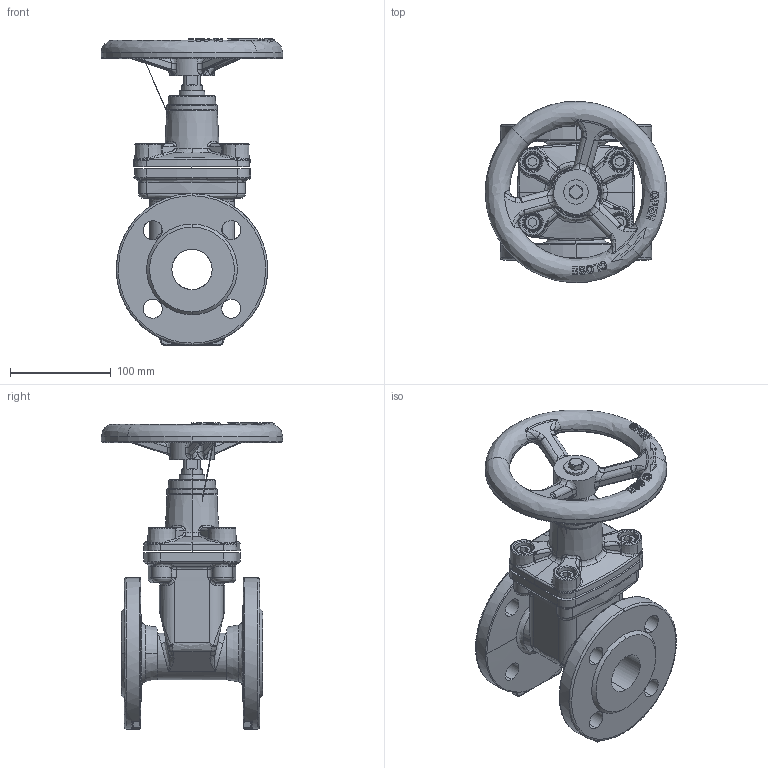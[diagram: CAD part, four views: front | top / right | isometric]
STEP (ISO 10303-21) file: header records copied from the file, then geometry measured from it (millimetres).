
FILE_DESCRIPTION (( 'STEP AP203' ), '1' );
FILE_NAME ('VOC4241C-00EP0040.STEP', '2021-11-17T15:00:11', ( '' ), ( '' ), 'SwSTEP 2.0', 'SolidWorks 2020', '' );
FILE_SCHEMA (( 'CONFIG_CONTROL_DESIGN' ));
Length unit declared in the file: millimetre
Products named in the file (1): VOC4241C-00EP0040
Bounding box: 180 x 179.72 x 303.5 mm (x, y, z)
Surface area: 239094.7 mm2 (no closed solid volume)
Topology: 0 solids, 16 shells, 910 faces, 3432 edges, 2493 vertices
Faces by surface type: bspline 555, plane 152, cylinder 108, cone 95
Entity records: 123999 total; most frequent: CARTESIAN_POINT 102363, ORIENTED_EDGE 5583, EDGE_CURVE 3420, VERTEX_POINT 2493, B_SPLINE_CURVE_WITH_KNOTS 2237, DIRECTION 2161, EDGE_LOOP 979, FACE_OUTER_BOUND 910
